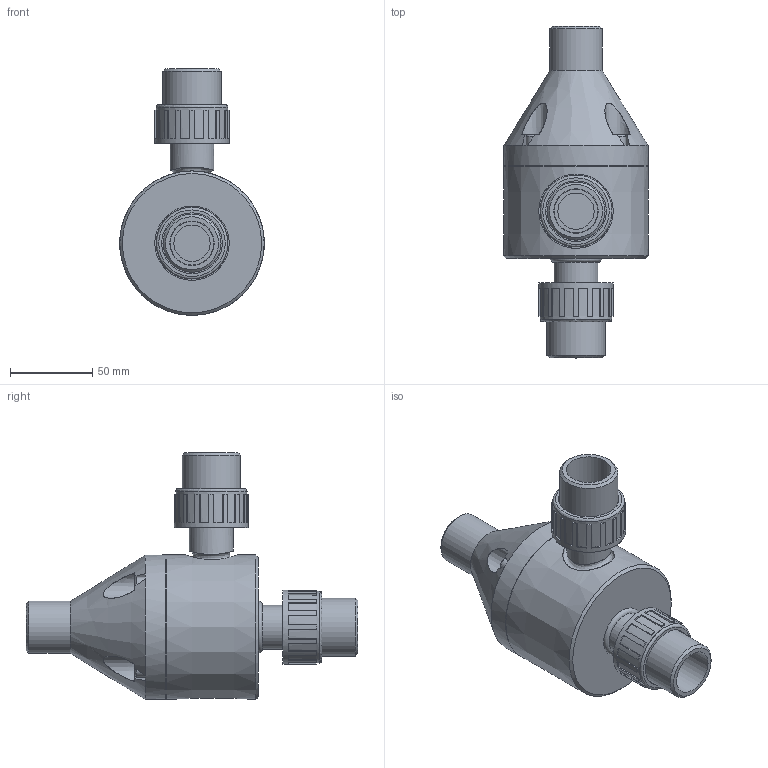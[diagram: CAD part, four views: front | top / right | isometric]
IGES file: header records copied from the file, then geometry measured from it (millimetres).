
Start section: SolidWorks IGES file using analytic representation for surfaces
Global section: file name: F:\Griffco-Valve\Griffco_current-projects\GV_web-files_2015\G Series Union\GBP0750_90-UNION.IGS; native system: SolidWorks 2014; preprocessor: SolidWorks 2014; author: Dan; date: 160901.035944; units: inch
Bounding box: 87.63 x 201.29 x 149.73 mm (x, y, z)
Surface area: 75534.3 mm2 (no closed solid volume)
Topology: 0 solids, 0 shells, 259 faces, 1282 edges, 1241 vertices
Faces by surface type: bspline 214, revolution 45
